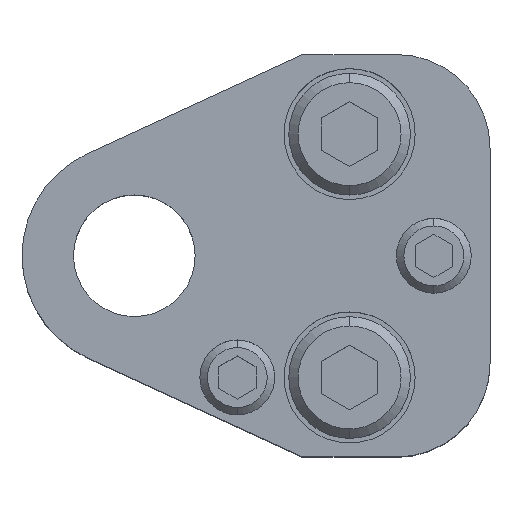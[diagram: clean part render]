
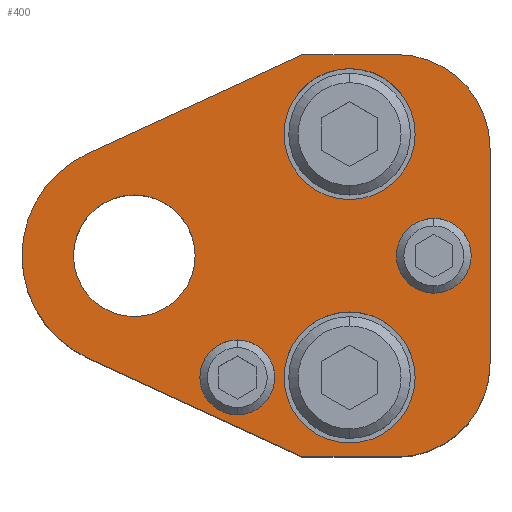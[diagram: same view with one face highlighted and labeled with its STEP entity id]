
A CAD part, top view. The second image highlights one B-rep face of the part: STEP entity #400.
In plain terms, the highlighted planar face has unit normal (0, 0, 1).
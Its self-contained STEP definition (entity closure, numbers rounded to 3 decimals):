
#192=FACE_BOUND('',#715,.T.);
#193=FACE_BOUND('',#716,.T.);
#194=FACE_BOUND('',#717,.T.);
#195=FACE_BOUND('',#718,.T.);
#196=FACE_BOUND('',#719,.T.);
#197=FACE_BOUND('',#720,.T.);
#246=CIRCLE('',#2264,12.);
#248=CIRCLE('',#2269,10.);
#250=CIRCLE('',#2273,10.);
#252=CIRCLE('',#2278,4.);
#254=CIRCLE('',#2281,4.);
#256=CIRCLE('',#2284,4.);
#258=CIRCLE('',#2287,4.);
#268=CIRCLE('',#2302,7.);
#269=CIRCLE('',#2303,7.);
#270=CIRCLE('',#2304,7.);
#271=CIRCLE('',#2305,7.);
#272=CIRCLE('',#2306,6.5);
#273=CIRCLE('',#2307,6.5);
#400=ADVANCED_FACE('',(#192,#193,#194,#195,#196,#197),#512,.T.);
#512=PLANE('',#2308);
#715=EDGE_LOOP('',(#1019,#1020,#1021,#1022,#1023,#1024,#1025,#1026));
#716=EDGE_LOOP('',(#1027,#1028));
#717=EDGE_LOOP('',(#1029,#1030));
#718=EDGE_LOOP('',(#1031,#1032));
#719=EDGE_LOOP('',(#1033,#1034));
#720=EDGE_LOOP('',(#1035,#1036));
#1019=ORIENTED_EDGE('',*,*,#1662,.T.);
#1020=ORIENTED_EDGE('',*,*,#1666,.T.);
#1021=ORIENTED_EDGE('',*,*,#1669,.T.);
#1022=ORIENTED_EDGE('',*,*,#1672,.T.);
#1023=ORIENTED_EDGE('',*,*,#1675,.T.);
#1024=ORIENTED_EDGE('',*,*,#1678,.T.);
#1025=ORIENTED_EDGE('',*,*,#1681,.T.);
#1026=ORIENTED_EDGE('',*,*,#1684,.T.);
#1027=ORIENTED_EDGE('',*,*,#1709,.F.);
#1028=ORIENTED_EDGE('',*,*,#1710,.F.);
#1029=ORIENTED_EDGE('',*,*,#1711,.F.);
#1030=ORIENTED_EDGE('',*,*,#1712,.F.);
#1031=ORIENTED_EDGE('',*,*,#1695,.F.);
#1032=ORIENTED_EDGE('',*,*,#1691,.F.);
#1033=ORIENTED_EDGE('',*,*,#1689,.F.);
#1034=ORIENTED_EDGE('',*,*,#1685,.F.);
#1035=ORIENTED_EDGE('',*,*,#1713,.T.);
#1036=ORIENTED_EDGE('',*,*,#1714,.T.);
#1452=VERTEX_POINT('',#3298);
#1453=VERTEX_POINT('',#3300);
#1456=VERTEX_POINT('',#3307);
#1458=VERTEX_POINT('',#3313);
#1460=VERTEX_POINT('',#3319);
#1462=VERTEX_POINT('',#3325);
#1464=VERTEX_POINT('',#3331);
#1466=VERTEX_POINT('',#3337);
#1467=VERTEX_POINT('',#3345);
#1468=VERTEX_POINT('',#3346);
#1471=VERTEX_POINT('',#3357);
#1472=VERTEX_POINT('',#3358);
#1483=VERTEX_POINT('',#3393);
#1484=VERTEX_POINT('',#3394);
#1485=VERTEX_POINT('',#3397);
#1486=VERTEX_POINT('',#3398);
#1487=VERTEX_POINT('',#3401);
#1488=VERTEX_POINT('',#3402);
#1662=EDGE_CURVE('',#1453,#1452,#246,.T.);
#1666=EDGE_CURVE('',#1452,#1456,#1940,.T.);
#1669=EDGE_CURVE('',#1456,#1458,#1943,.T.);
#1672=EDGE_CURVE('',#1458,#1460,#248,.T.);
#1675=EDGE_CURVE('',#1460,#1462,#1947,.T.);
#1678=EDGE_CURVE('',#1462,#1464,#250,.T.);
#1681=EDGE_CURVE('',#1464,#1466,#1951,.T.);
#1684=EDGE_CURVE('',#1466,#1453,#1954,.T.);
#1685=EDGE_CURVE('',#1467,#1468,#252,.T.);
#1689=EDGE_CURVE('',#1468,#1467,#254,.T.);
#1691=EDGE_CURVE('',#1471,#1472,#256,.T.);
#1695=EDGE_CURVE('',#1472,#1471,#258,.T.);
#1709=EDGE_CURVE('',#1483,#1484,#268,.T.);
#1710=EDGE_CURVE('',#1484,#1483,#269,.T.);
#1711=EDGE_CURVE('',#1485,#1486,#270,.T.);
#1712=EDGE_CURVE('',#1486,#1485,#271,.T.);
#1713=EDGE_CURVE('',#1487,#1488,#272,.T.);
#1714=EDGE_CURVE('',#1488,#1487,#273,.T.);
#1940=LINE('',#3308,#2104);
#1943=LINE('',#3314,#2107);
#1947=LINE('',#3326,#2111);
#1951=LINE('',#3338,#2115);
#1954=LINE('',#3342,#2118);
#2104=VECTOR('',#2628,1.);
#2107=VECTOR('',#2633,1.);
#2111=VECTOR('',#2645,1.);
#2115=VECTOR('',#2657,1.);
#2118=VECTOR('',#2662,1.);
#2264=AXIS2_PLACEMENT_3D('',#3299,#2620,#2621);
#2269=AXIS2_PLACEMENT_3D('',#3320,#2638,#2639);
#2273=AXIS2_PLACEMENT_3D('',#3332,#2650,#2651);
#2278=AXIS2_PLACEMENT_3D('',#3344,#2665,#2666);
#2281=AXIS2_PLACEMENT_3D('',#3353,#2673,#2674);
#2284=AXIS2_PLACEMENT_3D('',#3356,#2679,#2680);
#2287=AXIS2_PLACEMENT_3D('',#3365,#2687,#2688);
#2302=AXIS2_PLACEMENT_3D('',#3392,#2721,#2722);
#2303=AXIS2_PLACEMENT_3D('',#3395,#2723,#2724);
#2304=AXIS2_PLACEMENT_3D('',#3396,#2725,#2726);
#2305=AXIS2_PLACEMENT_3D('',#3399,#2727,#2728);
#2306=AXIS2_PLACEMENT_3D('',#3400,#2729,#2730);
#2307=AXIS2_PLACEMENT_3D('',#3403,#2731,#2732);
#2308=AXIS2_PLACEMENT_3D('',#3404,#2733,#2734);
#2620=DIRECTION('',(0.,0.,1.));
#2621=DIRECTION('',(0.,1.,0.));
#2628=DIRECTION('',(0.908,-0.418,0.));
#2633=DIRECTION('',(1.,0.,0.));
#2638=DIRECTION('',(0.,0.,1.));
#2639=DIRECTION('',(-0.707,0.707,0.));
#2645=DIRECTION('',(0.,1.,0.));
#2650=DIRECTION('',(0.,0.,1.));
#2651=DIRECTION('',(-0.707,-0.707,0.));
#2657=DIRECTION('',(-1.,0.,0.));
#2662=DIRECTION('',(-0.908,-0.418,0.));
#2665=DIRECTION('',(0.,0.,1.));
#2666=DIRECTION('',(1.,0.,0.));
#2673=DIRECTION('',(0.,0.,1.));
#2674=DIRECTION('',(-1.,0.,0.));
#2679=DIRECTION('',(0.,0.,1.));
#2680=DIRECTION('',(1.,0.,0.));
#2687=DIRECTION('',(0.,0.,1.));
#2688=DIRECTION('',(-1.,0.,0.));
#2721=DIRECTION('',(0.,0.,1.));
#2722=DIRECTION('',(1.,0.,0.));
#2723=DIRECTION('',(0.,0.,1.));
#2724=DIRECTION('',(-1.,0.,0.));
#2725=DIRECTION('',(0.,0.,1.));
#2726=DIRECTION('',(1.,0.,0.));
#2727=DIRECTION('',(0.,0.,1.));
#2728=DIRECTION('',(-1.,0.,0.));
#2729=DIRECTION('',(0.,0.,-1.));
#2730=DIRECTION('',(-1.,0.,0.));
#2731=DIRECTION('',(0.,0.,-1.));
#2732=DIRECTION('',(1.,0.,0.));
#2733=DIRECTION('',(0.,0.,1.));
#2734=DIRECTION('',(0.908,0.418,0.));
#3298=CARTESIAN_POINT('',(-5.019,-10.9,30.));
#3299=CARTESIAN_POINT('',(0.,0.,30.));
#3300=CARTESIAN_POINT('',(-5.019,10.9,30.));
#3307=CARTESIAN_POINT('',(18.,-21.5,30.));
#3308=CARTESIAN_POINT('',(18.,-21.5,30.));
#3313=CARTESIAN_POINT('',(28.,-21.5,30.));
#3314=CARTESIAN_POINT('',(18.,-21.5,30.));
#3319=CARTESIAN_POINT('',(38.,-11.5,30.));
#3320=CARTESIAN_POINT('',(28.,-11.5,30.));
#3325=CARTESIAN_POINT('',(38.,11.5,30.));
#3326=CARTESIAN_POINT('',(38.,-11.5,30.));
#3331=CARTESIAN_POINT('',(28.,21.5,30.));
#3332=CARTESIAN_POINT('',(28.,11.5,30.));
#3337=CARTESIAN_POINT('',(18.,21.5,30.));
#3338=CARTESIAN_POINT('',(18.,21.5,30.));
#3342=CARTESIAN_POINT('',(18.,21.5,30.));
#3344=CARTESIAN_POINT('',(11.,-13.,30.));
#3345=CARTESIAN_POINT('',(11.,-9.,30.));
#3346=CARTESIAN_POINT('',(11.,-17.,30.));
#3353=CARTESIAN_POINT('',(11.,-13.,30.));
#3356=CARTESIAN_POINT('',(32.,0.,30.));
#3357=CARTESIAN_POINT('',(32.,4.,30.));
#3358=CARTESIAN_POINT('',(32.,-4.,30.));
#3365=CARTESIAN_POINT('',(32.,0.,30.));
#3392=CARTESIAN_POINT('',(23.,-13.,30.));
#3393=CARTESIAN_POINT('',(23.,-6.,30.));
#3394=CARTESIAN_POINT('',(23.,-20.,30.));
#3395=CARTESIAN_POINT('',(23.,-13.,30.));
#3396=CARTESIAN_POINT('',(23.,13.,30.));
#3397=CARTESIAN_POINT('',(23.,20.,30.));
#3398=CARTESIAN_POINT('',(23.,6.,30.));
#3399=CARTESIAN_POINT('',(23.,13.,30.));
#3400=CARTESIAN_POINT('',(0.,0.,30.));
#3401=CARTESIAN_POINT('',(0.,6.5,30.));
#3402=CARTESIAN_POINT('',(0.,-6.5,30.));
#3403=CARTESIAN_POINT('',(0.,0.,30.));
#3404=CARTESIAN_POINT('',(-5.019,10.9,30.));
